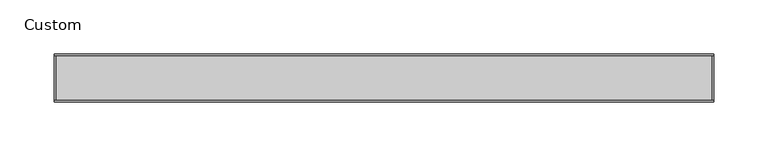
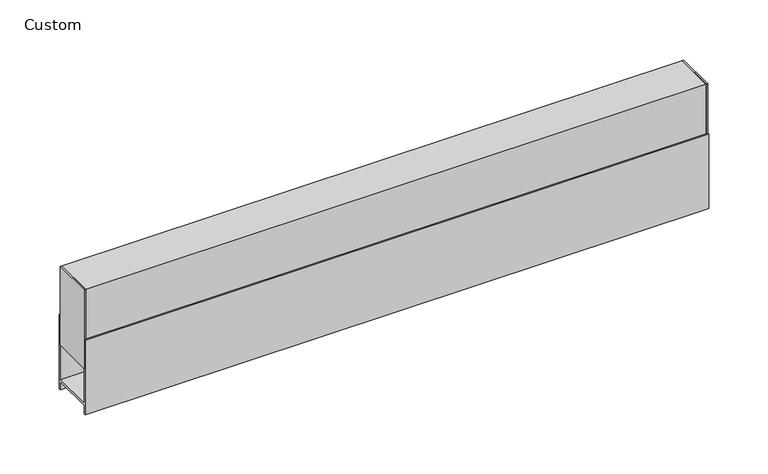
"""IFC4 building model written with IfcOpenShell, lengths in millimetres: light fixture geometry, Lighting-Pendant-Axis-Sculpt-Linear-Direct : Custom."""

from ifc_helpers import new_model, si_unit, frame, origin, place, context, project, spatial, polyline, outline, extrude, source, transform, mapped, element, save


def custom_b8e7a73b(model_context):
    return source(origin(), model_context, "Body", "SweptSolid", [
        extrude(outline(polyline([(-303.276, 20.193), (-303.276, -20.193), (-304.8, -20.193), (-304.8, 20.193), (-303.276, 20.193)])), frame((0.0, 0.0, 656.11502), z_axis=(0.0, 0.0, 1.0), x_axis=(1.0, 0.0, 0.0)), (0.0, 0.0, 1.0), 81.28),
        extrude(outline(polyline([(303.276, 20.193), (304.8, 20.193), (304.8, -20.193), (303.276, -20.193), (303.276, 20.193)])), frame((0.0, 0.0, 656.11502), z_axis=(0.0, 0.0, 1.0), x_axis=(1.0, 0.0, 0.0)), (0.0, 0.0, 1.0), 81.28),
        extrude(outline(polyline([(18.669, 656.11502), (18.669, 735.87102), (-18.669, 735.87102), (-18.669, 656.11502), (-20.193, 656.11502), (-20.193, 737.39502), (20.193, 737.39502), (20.193, 656.11502), (18.669, 656.11502)])), frame((-303.276, 0.0, 0.0), z_axis=(1.0, 0.0, 0.0), x_axis=(0.0, 1.0, 0.0)), (0.0, 0.0, 1.0), 606.552),
        extrude(outline(polyline([(-20.193, 620.0775), (20.193, 620.0775), (20.193, 686.59375), (22.225, 686.59375), (22.225, 609.6), (20.193, 609.6), (20.193, 618.0455), (-20.193, 618.0455), (-20.193, 609.6), (-22.225, 609.6), (-22.225, 686.59375), (-20.193, 686.59375), (-20.193, 620.0775)])), frame((-304.8, 0.0, 0.0), z_axis=(1.0, 0.0, 0.0), x_axis=(0.0, 1.0, 0.0)), (0.0, 0.0, 1.0), 609.6),
    ])


if __name__ == "__main__":
    model = new_model("IFC4")
    model_context = context("Model", 3, world=origin())
    ifc_project = project(units=[si_unit("LENGTHUNIT", "METRE", prefix="MILLI")], contexts=[model_context])
    site = spatial("IfcSite", under=ifc_project)
    building = spatial("IfcBuilding", under=site)
    placement = place(None, origin())
    custom_shape = custom_b8e7a73b(model_context)
    element("IfcLightFixture", 1, ObjectType="Lighting-Pendant-Axis-Sculpt-Linear-Direct : Custom", at=placement, inside=building, context=model_context, shape_type="MappedRepresentation", body=[
        mapped(custom_shape, transform((0.0, 0.0, 0.0), x_axis=(1.0, 0.0, 0.0), y_axis=(0.0, 1.0, 0.0), z_axis=(0.0, 0.0, 1.0))),
    ])
    save(model, "model.ifc")
